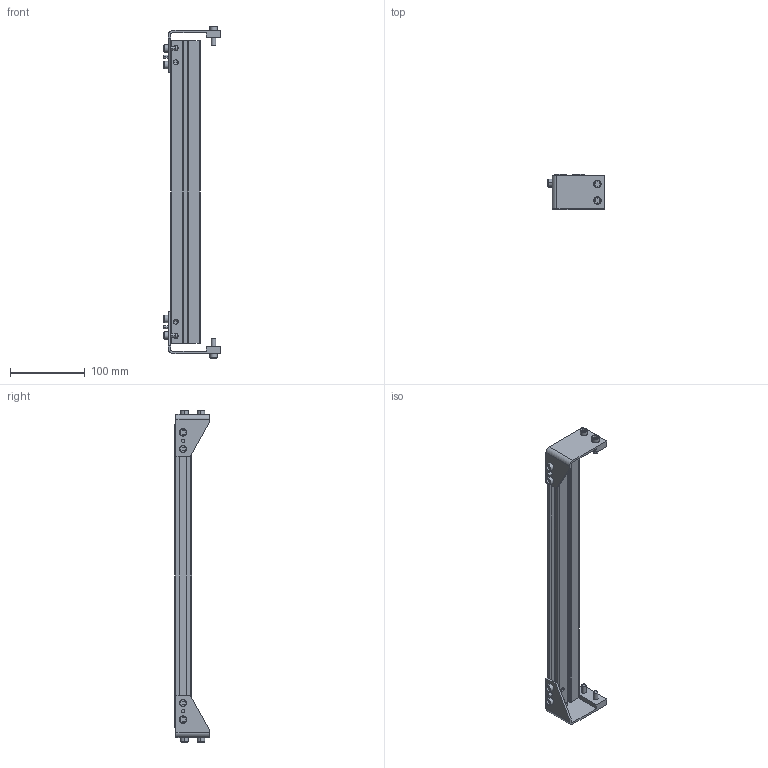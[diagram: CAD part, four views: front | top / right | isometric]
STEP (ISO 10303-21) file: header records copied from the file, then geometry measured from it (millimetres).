
FILE_DESCRIPTION((''),'2;1');
FILE_NAME('3076WWM_2_ASM','2023-03-15T',('jenni.wallner'),(''),'PRO/ENGINEER BY PARAMETRIC TECHNOLOGY CORPORATION, 2012420','PRO/ENGINEER BY PARAMETRIC TECHNOLOGY CORPORATION, 2012420','');
FILE_SCHEMA(('CONFIG_CONTROL_DESIGN'));
Length unit declared in the file: inch
Products named in the file (4): 677721_1; BRACKET_L; BRACKET_R; 3076WWM_2_ASM
Assembly tree (3 placements, depth 2):
  3076WWM_2_ASM
    677721_1
    BRACKET_L
    BRACKET_R
Bounding box: 76.2 x 46.13 x 443.22 mm (x, y, z)
Volume: 208824.8 mm3; surface area: 126761.8 mm2
Topology: 3 solids, 3 shells, 296 faces, 730 edges, 476 vertices
Faces by surface type: plane 188, cylinder 76, cone 32
Entity records: 8834 total; most frequent: DIRECTION 1520, CARTESIAN_POINT 1509, ORIENTED_EDGE 1460, EDGE_CURVE 730, VECTOR 546, LINE 546, AXIS2_PLACEMENT_3D 487, VERTEX_POINT 476
